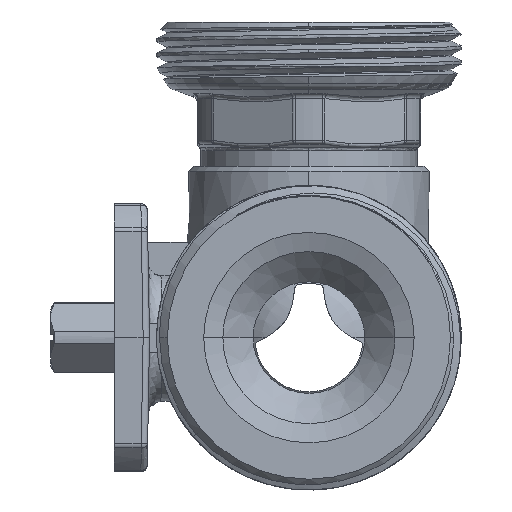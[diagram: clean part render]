
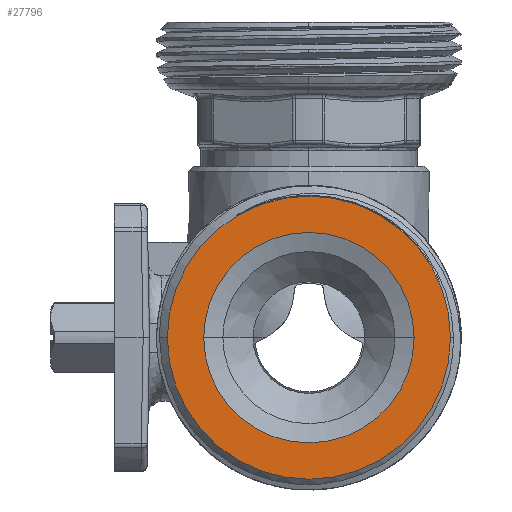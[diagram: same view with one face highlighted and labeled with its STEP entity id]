
A CAD part, left-side view. The second image highlights one B-rep face of the part: STEP entity #27796.
In plain terms, the highlighted planar face has unit normal (-1, 0, 0).
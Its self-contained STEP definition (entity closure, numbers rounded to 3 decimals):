
#4324=CARTESIAN_POINT('',(-49.,0.,0.));
#4325=DIRECTION('',(-1.,0.,0.));
#4326=DIRECTION('',(0.,1.,0.));
#4327=AXIS2_PLACEMENT_3D('',#4324,#4325,#4326);
#4329=CARTESIAN_POINT('',(-49.,0.,0.));
#4330=DIRECTION('',(1.,0.,0.));
#4331=DIRECTION('',(0.,1.,0.));
#4332=AXIS2_PLACEMENT_3D('',#4329,#4330,#4331);
#4395=CARTESIAN_POINT('',(-49.,0.,0.));
#4396=DIRECTION('',(1.,0.,0.));
#4397=DIRECTION('',(0.,1.,0.));
#4398=AXIS2_PLACEMENT_3D('',#4395,#4396,#4397);
#18860=CARTESIAN_POINT('',(-49.,0.,0.));
#18861=DIRECTION('',(-1.,0.,0.));
#18862=DIRECTION('',(0.,1.,0.));
#18863=AXIS2_PLACEMENT_3D('',#18860,#18861,#18862);
#20551=CARTESIAN_POINT('',(-49.,16.5,0.));
#20552=VERTEX_POINT('',#20551);
#20561=CARTESIAN_POINT('',(-49.,-16.5,0.));
#20562=VERTEX_POINT('',#20561);
#20563=CARTESIAN_POINT('',(-49.,22.2,0.));
#20564=CARTESIAN_POINT('',(-49.,-22.2,0.));
#20565=VERTEX_POINT('',#20563);
#20566=VERTEX_POINT('',#20564);
#27781=CARTESIAN_POINT('',(-49.,0.,0.));
#27782=DIRECTION('',(-1.,0.,0.));
#27783=DIRECTION('',(0.,1.,0.));
#27784=AXIS2_PLACEMENT_3D('',#27781,#27782,#27783);
#27785=PLANE('',#27784);
#27787=ORIENTED_EDGE('',*,*,#27786,.T.);
#27789=ORIENTED_EDGE('',*,*,#27788,.F.);
#27790=EDGE_LOOP('',(#27787,#27789));
#27791=FACE_OUTER_BOUND('',#27790,.F.);
#27792=ORIENTED_EDGE('',*,*,#27763,.T.);
#27793=ORIENTED_EDGE('',*,*,#27774,.F.);
#27794=EDGE_LOOP('',(#27792,#27793));
#27795=FACE_BOUND('',#27794,.F.);
#4328=CIRCLE('',#4327,16.5);
#4333=CIRCLE('',#4332,16.5);
#4399=CIRCLE('',#4398,22.2);
#18864=CIRCLE('',#18863,22.2);
#27763=EDGE_CURVE('',#20552,#20562,#4328,.T.);
#27774=EDGE_CURVE('',#20552,#20562,#4333,.T.);
#27786=EDGE_CURVE('',#20565,#20566,#4399,.T.);
#27788=EDGE_CURVE('',#20565,#20566,#18864,.T.);
#27796=ADVANCED_FACE('',(#27791,#27795),#27785,.T.);
